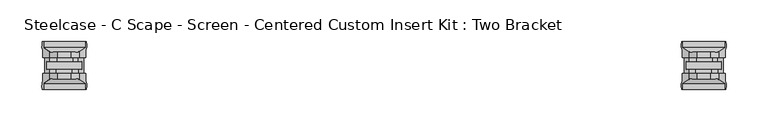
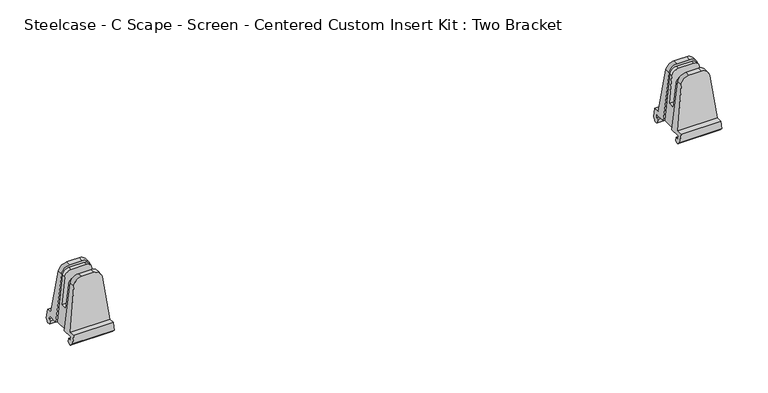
"""IFC4 building model written with IfcOpenShell, lengths in millimetres: furniture geometry, Steelcase - C Scape - Screen - Centered Custom Insert Kit : Two Bracket."""

from ifc_helpers import new_model, si_unit, frame, origin, place, context, project, spatial, circle_curve, ellipse_curve, source, transform, mapped, element, save
from ifc_brep_helpers import plane_surface, cylinder_surface, advanced_brep


def steelcase_c_scape_screen_centered_custom_insert_kit_two_a77dbf86(model_context):
    return source(origin(), model_context, "Body", "AdvancedBrep", [
        advanced_brep(
        [(828.8649563, -3.1752569, 793.5976353), (836.4687419, -3.1752569, 793.5976353), (844.1149668, -3.1752569, 793.5976353), (844.1149668, 3.17474, 793.5976353), (836.4687419, 3.17474, 793.5976353), (828.8649563, 3.17474, 793.5976353), (818.5537645, -3.1752569, 784.4759275), (811.1101946, -3.1752569, 723.9), (813.1940991, -3.1752569, 723.9), (819.4526704, -3.1752569, 783.4463283), (827.4545253, -3.1752569, 790.6512308), (847.0524021, -3.1752569, 790.6512308), (853.3679246, -3.1752569, 784.9620449), (859.7570489, -3.1752569, 723.9), (861.8697285, -3.1752569, 723.9), (854.4261585, -3.1752569, 784.4759275), (811.1101946, 10.1600734, 723.9), (861.8697285, 10.1600734, 723.9), (859.7570489, -22.2252569, 723.9), (861.8697285, -22.2250614, 723.9), (861.8697285, -35.5603917, 723.9), (811.1101946, -35.5603917, 723.9), (811.1101946, -22.2250614, 723.9), (813.1940991, -22.2250614, 723.9), (810.6415467, 10.1600734, 720.086134), (862.3383764, 10.1600734, 720.086134), (810.6415467, 6.7312129, 720.086134), (862.3383764, 6.7312129, 720.086134), (810.1109536, 6.7312129, 715.7681562), (862.8689695, 6.7312129, 715.7681562), (809.9003055, 9.1438564, 714.375), (863.0371783, 9.1438564, 714.375), (809.9397626, 11.8111354, 714.375), (863.0371783, 11.8111354, 714.375), (810.4079371, 15.6202052, 718.1850145), (862.5719859, 15.6202052, 718.1850145), (811.7562753, 15.6202052, 729.1578186), (861.2236478, 15.6202052, 729.1578186), (811.7562753, 8.8135415, 729.1578186), (861.2236478, 8.8135415, 729.1578186), (818.5537645, 3.9729344, 784.4759275), (854.4261585, 3.9729344, 784.4759275), (811.7562753, -34.2138598, 729.1578186), (861.2236478, -34.2138598, 729.1578186), (854.4261585, -29.3732527, 784.4759275), (844.1149668, -28.5750583, 793.5976353), (836.4687419, -28.5750583, 793.5976353), (828.8649563, -28.5750583, 793.5976353), (818.5537645, -29.3732527, 784.4759275), (811.7562753, -41.0205235, 729.1578186), (861.2236478, -41.0205235, 729.1578186), (810.4079371, -41.0205235, 718.1850145), (862.5719859, -41.0205235, 718.1850145), (809.9003055, -37.2114537, 714.375), (863.0371783, -37.2114537, 714.375), (809.9397626, -34.5441746, 714.375), (863.0371783, -34.5441746, 714.375), (810.1109536, -32.1315312, 715.7681562), (862.8689695, -32.1315312, 715.7681562), (810.6415467, -32.1315312, 720.086134), (862.3383764, -32.1315312, 720.086134), (810.6415467, -35.5603917, 720.086134), (862.3383764, -35.5603917, 720.086134), (828.8649563, -22.2250614, 793.5976353), (836.4687419, -22.2250614, 793.5976353), (844.1149668, -22.2250614, 793.5976353), (854.4261585, -22.2250614, 784.4759275), (853.9100885, -22.2250614, 779.780484), (846.1284113, -22.2250614, 786.79042), (826.601828, -22.2250614, 786.79042), (819.0935976, -22.2250614, 780.0299789), (818.5537645, -22.2250614, 784.4759275), (826.601828, -17.4500569, 786.79042), (846.1284113, -17.4500569, 786.79042), (853.9100885, -17.4500569, 779.780484), (857.1950426, -17.4500569, 748.3855694), (815.7676361, -17.4500569, 748.3855694), (819.0935976, -17.4500569, 780.0299789), (815.7676361, -7.9504569, 748.3855694), (819.4526704, -7.9504569, 783.4463283), (853.3679246, -7.9504569, 784.9620449), (857.1950426, -7.9504569, 748.3855694), (827.4545253, -7.9504569, 790.6512308), (847.0524021, -7.9504569, 790.6512308)],
        [
            (0, 1),
            (1, 2),
            (2, 3),
            (3, 4),
            (4, 5),
            (5, 0),
            (0, 6, circle_curve(frame((828.8649563, -3.1752569, 783.2088883), z_axis=(0.0, -1.0, 0.0), x_axis=(-1.0, 0.0, 0.0)), 10.388747)),
            (6, 7),
            (7, 8),
            (8, 9),
            (9, 10, circle_curve(frame((827.4545253, -3.1752569, 782.6052995), z_axis=(0.0, 1.0, 0.0), x_axis=(1.0, 0.0, 0.0)), 8.0459313)),
            (10, 11),
            (11, 12, circle_curve(frame((847.0524021, -3.1752569, 784.3012308), z_axis=(0.0, 1.0, 0.0), x_axis=(1.0, 0.0, 0.0)), 6.35)),
            (12, 13),
            (13, 14),
            (14, 15),
            (15, 2, circle_curve(frame((844.1149668, -3.1752569, 783.2088883), z_axis=(0.0, -1.0, 0.0), x_axis=(1.0, 0.0, 0.0)), 10.388747)),
            (16, 17),
            (17, 14),
            (13, 18),
            (18, 19),
            (19, 20),
            (20, 21),
            (21, 22),
            (22, 23),
            (23, 8),
            (7, 16),
            (16, 24),
            (24, 25),
            (25, 17),
            (24, 26),
            (26, 27),
            (27, 25),
            (26, 28),
            (28, 29),
            (29, 27),
            (30, 31),
            (31, 29),
            (28, 30),
            (30, 32),
            (32, 33),
            (33, 31),
            (32, 34),
            (34, 35),
            (35, 33),
            (34, 36),
            (36, 37),
            (37, 35),
            (36, 38),
            (38, 39),
            (39, 37),
            (38, 40),
            (40, 5, ellipse_curve(frame((828.8649563, 4.0838066, 783.2088883), z_axis=(0.0, 0.9961932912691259, 0.08717182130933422), x_axis=(0.0, 0.08717182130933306, -0.9961932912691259)), 10.428445, 10.388747)),
            (3, 41, ellipse_curve(frame((844.1149668, 4.0838066, 783.2088883), z_axis=(0.0, 0.9961932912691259, 0.08717182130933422), x_axis=(0.0, 0.08717182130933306, -0.9961932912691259)), 10.428445, 10.388747)),
            (41, 39),
            (42, 43),
            (43, 44),
            (44, 45, ellipse_curve(frame((844.1149668, -29.4841248, 783.2088883), z_axis=(0.0, -0.9961932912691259, 0.08717182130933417), x_axis=(0.0, 0.08717182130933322, 0.996193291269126)), 10.428445, 10.388747)),
            (45, 46),
            (46, 47),
            (47, 48, ellipse_curve(frame((828.8649563, -29.4841248, 783.2088883), z_axis=(0.0, -0.9961932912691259, 0.08717182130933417), x_axis=(0.0, 0.08717182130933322, 0.996193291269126)), 10.428445, 10.388747)),
            (48, 42),
            (42, 49),
            (49, 50),
            (50, 43),
            (49, 51),
            (51, 52),
            (52, 50),
            (53, 54),
            (54, 52),
            (51, 53),
            (53, 55),
            (55, 56),
            (56, 54),
            (55, 57),
            (57, 58),
            (58, 56),
            (57, 59),
            (59, 60),
            (60, 58),
            (59, 61),
            (61, 62),
            (62, 60),
            (61, 21),
            (20, 62),
            (63, 64),
            (64, 65),
            (65, 66, circle_curve(frame((844.1149668, -22.2250614, 783.2088883), z_axis=(0.0, 1.0, 0.0), x_axis=(1.0, 0.0, 0.0)), 10.388747)),
            (66, 19),
            (18, 67),
            (67, 68, circle_curve(frame((846.1284113, -22.2250614, 778.9662613), z_axis=(0.0, -1.0, 0.0), x_axis=(1.0, 0.0, 0.0)), 7.8241587)),
            (68, 69),
            (69, 70, circle_curve(frame((826.601828, -22.2250614, 779.2408321), z_axis=(0.0, -1.0, 0.0), x_axis=(1.0, 0.0, 0.0)), 7.5495878)),
            (70, 23),
            (22, 71),
            (71, 63, circle_curve(frame((828.8649563, -22.2250614, 783.2088883), z_axis=(0.0, 1.0, 0.0), x_axis=(-1.0, 0.0, 0.0)), 10.388747)),
            (45, 65),
            (63, 47),
            (6, 40),
            (48, 71),
            (15, 41),
            (44, 66),
            (72, 73),
            (73, 74, circle_curve(frame((846.1284113, -17.4500569, 778.9662613), z_axis=(0.0, 1.0, 0.0), x_axis=(1.0, 0.0, 0.0)), 7.8241587)),
            (74, 75),
            (75, 76),
            (76, 77),
            (77, 72, circle_curve(frame((826.601828, -17.4500569, 779.2408321), z_axis=(0.0, 1.0, 0.0), x_axis=(1.0, 0.0, 0.0)), 7.5495878)),
            (77, 70),
            (69, 72),
            (76, 78),
            (78, 79),
            (79, 9),
            (12, 80),
            (80, 81),
            (81, 75),
            (74, 67),
            (73, 68),
            (82, 79, circle_curve(frame((827.4545253, -7.9504569, 782.6052995), z_axis=(0.0, -1.0, 0.0), x_axis=(1.0, 0.0, 0.0)), 8.0459313)),
            (78, 81),
            (80, 83, circle_curve(frame((847.0524021, -7.9504569, 784.3012308), z_axis=(0.0, -1.0, 0.0), x_axis=(1.0, 0.0, 0.0)), 6.35)),
            (83, 82),
            (82, 10),
            (11, 83),
        ],
        [
            plane_surface(frame((863.0371783, 3.17474, 793.5976353), z_axis=(0.0, 0.0, 1.0), x_axis=(-1.0, 0.0, 0.0))),
            plane_surface(frame((863.0371783, -3.1752569, 793.5976353), z_axis=(0.0, -1.0, 0.0), x_axis=(-1.0, 0.0, 0.0))),
            plane_surface(frame((863.0371783, -3.1752569, 723.9), z_axis=(0.0, 0.0, -1.0), x_axis=(-1.0, 0.0, 0.0))),
            plane_surface(frame((863.0371783, 10.1600734, 723.9), z_axis=(0.0, -1.0, 0.0), x_axis=(-1.0, 0.0, 0.0))),
            plane_surface(frame((863.0371783, 10.1600734, 720.086134), z_axis=(0.0, 0.0, 1.0), x_axis=(-1.0, 0.0, 0.0))),
            plane_surface(frame((863.0371783, 6.7312129, 720.086134), z_axis=(0.0, -1.0, 0.0), x_axis=(-1.0, 0.0, 0.0))),
            plane_surface(frame((863.0371783, 6.7312129, 715.7681562), z_axis=(0.0, -0.5000581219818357, -0.8659918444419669), x_axis=(-1.0, 0.0, 0.0))),
            plane_surface(frame((863.0371783, 9.1438564, 714.375), z_axis=(0.0, 0.0, -1.0), x_axis=(-1.0, 0.0, 0.0))),
            plane_surface(frame((863.0371783, 11.8111354, 714.375), z_axis=(0.0, 0.7071944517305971, -0.7070190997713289), x_axis=(-1.0, 0.0, 0.0))),
            plane_surface(frame((863.0371783, 15.6202052, 718.1850145), z_axis=(0.0, 1.0, 0.0), x_axis=(-1.0, 0.0, 0.0))),
            plane_surface(frame((863.0371783, 15.6202052, 729.1578186), z_axis=(0.0, 0.0, 1.0), x_axis=(-1.0, 0.0, 0.0))),
            plane_surface(frame((863.0371783, 8.8135415, 729.1578186), z_axis=(0.0, 0.9961932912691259, 0.08717182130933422), x_axis=(-1.0, 0.0, 0.0))),
            plane_surface(frame((863.0371783, -28.5750583, 793.5976353), z_axis=(0.0, -0.9961932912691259, 0.08717182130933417), x_axis=(-1.0, 0.0, 0.0))),
            plane_surface(frame((863.0371783, -34.2138598, 729.1578186), z_axis=(0.0, 0.0, 1.0), x_axis=(-1.0, 0.0, 0.0))),
            plane_surface(frame((863.0371783, -41.0205235, 729.1578186), z_axis=(0.0, -1.0, 0.0), x_axis=(-1.0, 0.0, 0.0))),
            plane_surface(frame((863.0371783, -41.0205235, 718.1850145), z_axis=(0.0, -0.7071944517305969, -0.707019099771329), x_axis=(-1.0, 0.0, 0.0))),
            plane_surface(frame((863.0371783, -37.2114537, 714.375), z_axis=(0.0, 0.0, -1.0), x_axis=(-1.0, 0.0, 0.0))),
            plane_surface(frame((863.0371783, -34.5441746, 714.375), z_axis=(0.0, 0.5000581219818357, -0.8659918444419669), x_axis=(-1.0, 0.0, 0.0))),
            plane_surface(frame((863.0371783, -32.1315312, 715.7681562), z_axis=(0.0, 1.0, 0.0), x_axis=(-1.0, 0.0, 0.0))),
            plane_surface(frame((863.0371783, -32.1315312, 720.086134), z_axis=(0.0, 0.0, 1.0), x_axis=(-1.0, 0.0, 0.0))),
            plane_surface(frame((863.0371783, -35.5603917, 720.086134), z_axis=(0.0, 1.0, 0.0), x_axis=(-1.0, 0.0, 0.0))),
            plane_surface(frame((863.0371783, -22.2250614, 723.9), z_axis=(0.0, 1.0, 0.0), x_axis=(-1.0, 0.0, 0.0))),
            plane_surface(frame((863.0371783, -22.2250614, 793.5976353), z_axis=(0.0, 0.0, 1.0), x_axis=(-1.0, 0.0, 0.0))),
            plane_surface(frame((809.9397626, -43.2064559, 714.375), z_axis=(-0.9925346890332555, 0.0, 0.12196266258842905), x_axis=(0.0, 1.0, 0.0))),
            cylinder_surface(frame((828.8649563, 17.5208706, 783.2088883), z_axis=(0.0, 1.0, 0.0), x_axis=(-1.0, 0.0, 0.0)), 10.388747),
            cylinder_surface(frame((844.1149668, 17.5208706, 783.2088883), z_axis=(0.0, 1.0, 0.0), x_axis=(1.0, 0.0, 0.0)), 10.388747),
            plane_surface(frame((854.4261585, -43.2064559, 784.4759275), z_axis=(0.9925346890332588, 0.0, 0.12196266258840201), x_axis=(0.0, 1.0, 0.0))),
            plane_surface(frame((834.1514158, -17.4500569, 779.2408321), z_axis=(0.0, 1.0, 0.0), x_axis=(0.0, 0.0, -1.0))),
            cylinder_surface(frame((826.601828, -17.4500569, 779.2408321), z_axis=(0.0, -1.0, 0.0), x_axis=(1.0, 0.0, 0.0)), 7.5495878),
            plane_surface(frame((819.0935976, -22.2252569, 780.0299789), z_axis=(-0.9945218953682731, 0.0, 0.10452846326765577), x_axis=(0.0, 1.0, 0.0))),
            plane_surface(frame((859.7570489, -22.2252569, 723.9), z_axis=(0.9945704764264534, 0.0, 0.10406520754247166), x_axis=(0.0, 1.0, 0.0))),
            cylinder_surface(frame((846.1284113, -17.4500569, 778.9662613), z_axis=(0.0, -1.0, 0.0), x_axis=(1.0, 0.0, 0.0)), 7.8241587),
            plane_surface(frame((846.1284113, -22.2252569, 786.79042), z_axis=(0.0, 0.0, 1.0), x_axis=(0.0, 1.0, 0.0))),
            plane_surface(frame((835.5004566, -7.9504569, 782.6052995), z_axis=(0.0, -1.0, 0.0), x_axis=(0.0, 0.0, 1.0))),
            cylinder_surface(frame((827.4545253, -3.1752569, 782.6052995), z_axis=(0.0, -1.0, 0.0), x_axis=(1.0, 0.0, 0.0)), 8.0459313),
            cylinder_surface(frame((847.0524021, -3.1752569, 784.3012308), z_axis=(0.0, -1.0, 0.0), x_axis=(1.0, 0.0, 0.0)), 6.35),
            plane_surface(frame((847.0524021, -7.9504569, 790.6512308), z_axis=(0.0, 0.0, 1.0), x_axis=(0.0, 1.0, 0.0))),
            plane_surface(frame((857.1950426, -17.4500569, 748.3855694), z_axis=(0.0, 0.0, 1.0), x_axis=(0.0, 1.0, 0.0))),
        ],
        [
            (0, [[1, 2, 3, 4, 5, 6]]),
            (1, [[-1, 7, 8, 9, 10, 11, 12, 13, 14, 15, 16, 17, -2]]),
            (2, [[18, 19, -15, 20, 21, 22, 23, 24, 25, 26, -9, 27]]),
            (3, [[-18, 28, 29, 30]]),
            (4, [[-29, 31, 32, 33]]),
            (5, [[-32, 34, 35, 36]]),
            (6, [[37, 38, -35, 39]]),
            (7, [[-37, 40, 41, 42]]),
            (8, [[-41, 43, 44, 45]]),
            (9, [[-44, 46, 47, 48]]),
            (10, [[-47, 49, 50, 51]]),
            (11, [[-50, 52, 53, -5, -4, 54, 55]]),
            (12, [[56, 57, 58, 59, 60, 61, 62]]),
            (13, [[-56, 63, 64, 65]]),
            (14, [[-64, 66, 67, 68]]),
            (15, [[69, 70, -67, 71]]),
            (16, [[-69, 72, 73, 74]]),
            (17, [[-73, 75, 76, 77]]),
            (18, [[-76, 78, 79, 80]]),
            (19, [[-79, 81, 82, 83]]),
            (20, [[-82, 84, -23, 85]]),
            (21, [[86, 87, 88, 89, -21, 90, 91, 92, 93, 94, -25, 95, 96]]),
            (22, [[-59, 97, -87, -86, 98, -60]]),
            (23, [[99, -52, -49, -46, -43, -40, -39, -34, -31, -28, -27, -8]]),
            (23, [[100, -95, -24, -84, -81, -78, -75, -72, -71, -66, -63, -62]]),
            (24, [[-99, -7, -6, -53]]),
            (24, [[-100, -61, -98, -96]]),
            (25, [[101, -54, -3, -17]]),
            (25, [[102, -88, -97, -58]]),
            (26, [[-101, -16, -19, -30, -33, -36, -38, -42, -45, -48, -51, -55]]),
            (26, [[-102, -57, -65, -68, -70, -74, -77, -80, -83, -85, -22, -89]]),
            (27, [[103, 104, 105, 106, 107, 108]]),
            (28, [[-108, 109, -93, 110]]),
            (29, [[-109, -107, 111, 112, 113, -10, -26, -94]]),
            (30, [[-20, -14, 114, 115, 116, -105, 117, -90]]),
            (31, [[-104, 118, -91, -117]]),
            (32, [[-103, -110, -92, -118]]),
            (33, [[119, -112, 120, -115, 121, 122]]),
            (34, [[-119, 123, -11, -113]]),
            (35, [[-121, -114, -13, 124]]),
            (36, [[-122, -124, -12, -123]]),
            (37, [[-111, -106, -116, -120]]),
        ],
    ),
        advanced_brep(
        [(67.0173627, -3.1752569, 793.5976353), (74.6211483, -3.1752569, 793.5976353), (82.2673732, -3.1752569, 793.5976353), (82.2673732, 3.17474, 793.5976353), (74.6211483, 3.17474, 793.5976353), (67.0173627, 3.17474, 793.5976353), (56.706171, -3.1752569, 784.4759275), (49.262601, -3.1752569, 723.9), (51.3465055, -3.1752569, 723.9), (57.6050768, -3.1752569, 783.4463283), (65.6069317, -3.1752569, 790.6512308), (85.2048085, -3.1752569, 790.6512308), (91.520331, -3.1752569, 784.9620449), (97.9094553, -3.1752569, 723.9), (100.0221349, -3.1752569, 723.9), (92.578565, -3.1752569, 784.4759275), (49.262601, 10.1600734, 723.9), (100.0221349, 10.1600734, 723.9), (97.9094553, -22.2252569, 723.9), (100.0221349, -22.2250614, 723.9), (100.0221349, -35.5603917, 723.9), (49.262601, -35.5603917, 723.9), (49.262601, -22.2250614, 723.9), (51.3465055, -22.2250614, 723.9), (48.7939531, 10.1600734, 720.086134), (100.4907828, 10.1600734, 720.086134), (48.7939531, 6.7312129, 720.086134), (100.4907828, 6.7312129, 720.086134), (48.26336, 6.7312129, 715.7681562), (101.0213759, 6.7312129, 715.7681562), (48.0527119, 9.1438564, 714.375), (101.1895848, 9.1438564, 714.375), (48.092169, 11.8111354, 714.375), (101.1895848, 11.8111354, 714.375), (48.5603436, 15.6202052, 718.1850145), (100.7243923, 15.6202052, 718.1850145), (49.9086817, 15.6202052, 729.1578186), (99.3760542, 15.6202052, 729.1578186), (49.9086817, 8.8135415, 729.1578186), (99.3760542, 8.8135415, 729.1578186), (56.706171, 3.9729344, 784.4759275), (92.578565, 3.9729344, 784.4759275), (49.9086817, -34.2138598, 729.1578186), (99.3760542, -34.2138598, 729.1578186), (92.578565, -29.3732527, 784.4759275), (82.2673732, -28.5750583, 793.5976353), (74.6211483, -28.5750583, 793.5976353), (67.0173627, -28.5750583, 793.5976353), (56.706171, -29.3732527, 784.4759275), (49.9086817, -41.0205235, 729.1578186), (99.3760542, -41.0205235, 729.1578186), (48.5603436, -41.0205235, 718.1850145), (100.7243923, -41.0205235, 718.1850145), (48.0527119, -37.2114537, 714.375), (101.1895848, -37.2114537, 714.375), (48.092169, -34.5441746, 714.375), (101.1895848, -34.5441746, 714.375), (48.26336, -32.1315312, 715.7681562), (101.0213759, -32.1315312, 715.7681562), (48.7939531, -32.1315312, 720.086134), (100.4907828, -32.1315312, 720.086134), (48.7939531, -35.5603917, 720.086134), (100.4907828, -35.5603917, 720.086134), (67.0173627, -22.2250614, 793.5976353), (74.6211483, -22.2250614, 793.5976353), (82.2673732, -22.2250614, 793.5976353), (92.578565, -22.2250614, 784.4759275), (92.0624949, -22.2250614, 779.780484), (84.2808177, -22.2250614, 786.79042), (64.7542344, -22.2250614, 786.79042), (57.246004, -22.2250614, 780.0299789), (56.706171, -22.2250614, 784.4759275), (64.7542344, -17.4500569, 786.79042), (84.2808177, -17.4500569, 786.79042), (92.0624949, -17.4500569, 779.780484), (95.347449, -17.4500569, 748.3855694), (53.9200426, -17.4500569, 748.3855694), (57.246004, -17.4500569, 780.0299789), (53.9200426, -7.9504569, 748.3855694), (57.6050768, -7.9504569, 783.4463283), (91.520331, -7.9504569, 784.9620449), (95.347449, -7.9504569, 748.3855694), (65.6069317, -7.9504569, 790.6512308), (85.2048085, -7.9504569, 790.6512308)],
        [
            (0, 1),
            (1, 2),
            (2, 3),
            (3, 4),
            (4, 5),
            (5, 0),
            (0, 6, circle_curve(frame((67.0173627, -3.1752569, 783.2088883), z_axis=(0.0, -1.0, 0.0), x_axis=(-1.0, 0.0, 0.0)), 10.388747)),
            (6, 7),
            (7, 8),
            (8, 9),
            (9, 10, circle_curve(frame((65.6069317, -3.1752569, 782.6052995), z_axis=(0.0, 1.0, 0.0), x_axis=(1.0, 0.0, 0.0)), 8.0459313)),
            (10, 11),
            (11, 12, circle_curve(frame((85.2048085, -3.1752569, 784.3012308), z_axis=(0.0, 1.0, 0.0), x_axis=(1.0, 0.0, 0.0)), 6.35)),
            (12, 13),
            (13, 14),
            (14, 15),
            (15, 2, circle_curve(frame((82.2673732, -3.1752569, 783.2088883), z_axis=(0.0, -1.0, 0.0), x_axis=(1.0, 0.0, 0.0)), 10.388747)),
            (16, 17),
            (17, 14),
            (13, 18),
            (18, 19),
            (19, 20),
            (20, 21),
            (21, 22),
            (22, 23),
            (23, 8),
            (7, 16),
            (16, 24),
            (24, 25),
            (25, 17),
            (24, 26),
            (26, 27),
            (27, 25),
            (26, 28),
            (28, 29),
            (29, 27),
            (30, 31),
            (31, 29),
            (28, 30),
            (30, 32),
            (32, 33),
            (33, 31),
            (32, 34),
            (34, 35),
            (35, 33),
            (34, 36),
            (36, 37),
            (37, 35),
            (36, 38),
            (38, 39),
            (39, 37),
            (38, 40),
            (40, 5, ellipse_curve(frame((67.0173627, 4.0838066, 783.2088883), z_axis=(0.0, 0.9961932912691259, 0.08717182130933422), x_axis=(0.0, 0.08717182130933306, -0.9961932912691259)), 10.428445, 10.388747)),
            (3, 41, ellipse_curve(frame((82.2673732, 4.0838066, 783.2088883), z_axis=(0.0, 0.9961932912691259, 0.08717182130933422), x_axis=(0.0, 0.08717182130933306, -0.9961932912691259)), 10.428445, 10.388747)),
            (41, 39),
            (42, 43),
            (43, 44),
            (44, 45, ellipse_curve(frame((82.2673732, -29.4841248, 783.2088883), z_axis=(0.0, -0.9961932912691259, 0.08717182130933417), x_axis=(0.0, 0.08717182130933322, 0.996193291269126)), 10.428445, 10.388747)),
            (45, 46),
            (46, 47),
            (47, 48, ellipse_curve(frame((67.0173627, -29.4841248, 783.2088883), z_axis=(0.0, -0.9961932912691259, 0.08717182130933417), x_axis=(0.0, 0.08717182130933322, 0.996193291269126)), 10.428445, 10.388747)),
            (48, 42),
            (42, 49),
            (49, 50),
            (50, 43),
            (49, 51),
            (51, 52),
            (52, 50),
            (53, 54),
            (54, 52),
            (51, 53),
            (53, 55),
            (55, 56),
            (56, 54),
            (55, 57),
            (57, 58),
            (58, 56),
            (57, 59),
            (59, 60),
            (60, 58),
            (59, 61),
            (61, 62),
            (62, 60),
            (61, 21),
            (20, 62),
            (63, 64),
            (64, 65),
            (65, 66, circle_curve(frame((82.2673732, -22.2250614, 783.2088883), z_axis=(0.0, 1.0, 0.0), x_axis=(1.0, 0.0, 0.0)), 10.388747)),
            (66, 19),
            (18, 67),
            (67, 68, circle_curve(frame((84.2808177, -22.2250614, 778.9662613), z_axis=(0.0, -1.0, 0.0), x_axis=(1.0, 0.0, 0.0)), 7.8241587)),
            (68, 69),
            (69, 70, circle_curve(frame((64.7542344, -22.2250614, 779.2408321), z_axis=(0.0, -1.0, 0.0), x_axis=(1.0, 0.0, 0.0)), 7.5495878)),
            (70, 23),
            (22, 71),
            (71, 63, circle_curve(frame((67.0173627, -22.2250614, 783.2088883), z_axis=(0.0, 1.0, 0.0), x_axis=(-1.0, 0.0, 0.0)), 10.388747)),
            (45, 65),
            (63, 47),
            (6, 40),
            (48, 71),
            (15, 41),
            (44, 66),
            (72, 73),
            (73, 74, circle_curve(frame((84.2808177, -17.4500569, 778.9662613), z_axis=(0.0, 1.0, 0.0), x_axis=(1.0, 0.0, 0.0)), 7.8241587)),
            (74, 75),
            (75, 76),
            (76, 77),
            (77, 72, circle_curve(frame((64.7542344, -17.4500569, 779.2408321), z_axis=(0.0, 1.0, 0.0), x_axis=(1.0, 0.0, 0.0)), 7.5495878)),
            (77, 70),
            (69, 72),
            (76, 78),
            (78, 79),
            (79, 9),
            (12, 80),
            (80, 81),
            (81, 75),
            (74, 67),
            (73, 68),
            (82, 79, circle_curve(frame((65.6069317, -7.9504569, 782.6052995), z_axis=(0.0, -1.0, 0.0), x_axis=(1.0, 0.0, 0.0)), 8.0459313)),
            (78, 81),
            (80, 83, circle_curve(frame((85.2048085, -7.9504569, 784.3012308), z_axis=(0.0, -1.0, 0.0), x_axis=(1.0, 0.0, 0.0)), 6.35)),
            (83, 82),
            (82, 10),
            (11, 83),
        ],
        [
            plane_surface(frame((101.1895848, 3.17474, 793.5976353), z_axis=(0.0, 0.0, 1.0), x_axis=(-1.0, 0.0, 0.0))),
            plane_surface(frame((101.1895848, -3.1752569, 793.5976353), z_axis=(0.0, -1.0, 0.0), x_axis=(-1.0, 0.0, 0.0))),
            plane_surface(frame((101.1895848, -3.1752569, 723.9), z_axis=(0.0, 0.0, -1.0), x_axis=(-1.0, 0.0, 0.0))),
            plane_surface(frame((101.1895848, 10.1600734, 723.9), z_axis=(0.0, -1.0, 0.0), x_axis=(-1.0, 0.0, 0.0))),
            plane_surface(frame((101.1895848, 10.1600734, 720.086134), z_axis=(0.0, 0.0, 1.0), x_axis=(-1.0, 0.0, 0.0))),
            plane_surface(frame((101.1895848, 6.7312129, 720.086134), z_axis=(0.0, -1.0, 0.0), x_axis=(-1.0, 0.0, 0.0))),
            plane_surface(frame((101.1895848, 6.7312129, 715.7681562), z_axis=(0.0, -0.5000581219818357, -0.8659918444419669), x_axis=(-1.0, 0.0, 0.0))),
            plane_surface(frame((101.1895848, 9.1438564, 714.375), z_axis=(0.0, 0.0, -1.0), x_axis=(-1.0, 0.0, 0.0))),
            plane_surface(frame((101.1895848, 11.8111354, 714.375), z_axis=(0.0, 0.7071944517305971, -0.7070190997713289), x_axis=(-1.0, 0.0, 0.0))),
            plane_surface(frame((101.1895848, 15.6202052, 718.1850145), z_axis=(0.0, 1.0, 0.0), x_axis=(-1.0, 0.0, 0.0))),
            plane_surface(frame((101.1895848, 15.6202052, 729.1578186), z_axis=(0.0, 0.0, 1.0), x_axis=(-1.0, 0.0, 0.0))),
            plane_surface(frame((101.1895848, 8.8135415, 729.1578186), z_axis=(0.0, 0.9961932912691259, 0.08717182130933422), x_axis=(-1.0, 0.0, 0.0))),
            plane_surface(frame((101.1895848, -28.5750583, 793.5976353), z_axis=(0.0, -0.9961932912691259, 0.08717182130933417), x_axis=(-1.0, 0.0, 0.0))),
            plane_surface(frame((101.1895848, -34.2138598, 729.1578186), z_axis=(0.0, 0.0, 1.0), x_axis=(-1.0, 0.0, 0.0))),
            plane_surface(frame((101.1895848, -41.0205235, 729.1578186), z_axis=(0.0, -1.0, 0.0), x_axis=(-1.0, 0.0, 0.0))),
            plane_surface(frame((101.1895848, -41.0205235, 718.1850145), z_axis=(0.0, -0.7071944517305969, -0.707019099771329), x_axis=(-1.0, 0.0, 0.0))),
            plane_surface(frame((101.1895848, -37.2114537, 714.375), z_axis=(0.0, 0.0, -1.0), x_axis=(-1.0, 0.0, 0.0))),
            plane_surface(frame((101.1895848, -34.5441746, 714.375), z_axis=(0.0, 0.5000581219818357, -0.8659918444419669), x_axis=(-1.0, 0.0, 0.0))),
            plane_surface(frame((101.1895848, -32.1315312, 715.7681562), z_axis=(0.0, 1.0, 0.0), x_axis=(-1.0, 0.0, 0.0))),
            plane_surface(frame((101.1895848, -32.1315312, 720.086134), z_axis=(0.0, 0.0, 1.0), x_axis=(-1.0, 0.0, 0.0))),
            plane_surface(frame((101.1895848, -35.5603917, 720.086134), z_axis=(0.0, 1.0, 0.0), x_axis=(-1.0, 0.0, 0.0))),
            plane_surface(frame((101.1895848, -22.2250614, 723.9), z_axis=(0.0, 1.0, 0.0), x_axis=(-1.0, 0.0, 0.0))),
            plane_surface(frame((101.1895848, -22.2250614, 793.5976353), z_axis=(0.0, 0.0, 1.0), x_axis=(-1.0, 0.0, 0.0))),
            plane_surface(frame((48.092169, -43.2064559, 714.375), z_axis=(-0.9925346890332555, 0.0, 0.12196266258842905), x_axis=(0.0, 1.0, 0.0))),
            cylinder_surface(frame((67.0173627, 17.5208706, 783.2088883), z_axis=(0.0, 1.0, 0.0), x_axis=(-1.0, 0.0, 0.0)), 10.388747),
            cylinder_surface(frame((82.2673732, 17.5208706, 783.2088883), z_axis=(0.0, 1.0, 0.0), x_axis=(1.0, 0.0, 0.0)), 10.388747),
            plane_surface(frame((92.578565, -43.2064559, 784.4759275), z_axis=(0.9925346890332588, 0.0, 0.12196266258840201), x_axis=(0.0, 1.0, 0.0))),
            plane_surface(frame((72.3038223, -17.4500569, 779.2408321), z_axis=(0.0, 1.0, 0.0), x_axis=(0.0, 0.0, -1.0))),
            cylinder_surface(frame((64.7542344, -17.4500569, 779.2408321), z_axis=(0.0, -1.0, 0.0), x_axis=(1.0, 0.0, 0.0)), 7.5495878),
            plane_surface(frame((57.246004, -22.2252569, 780.0299789), z_axis=(-0.9945218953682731, 0.0, 0.10452846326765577), x_axis=(0.0, 1.0, 0.0))),
            plane_surface(frame((97.9094553, -22.2252569, 723.9), z_axis=(0.9945704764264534, 0.0, 0.10406520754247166), x_axis=(0.0, 1.0, 0.0))),
            cylinder_surface(frame((84.2808177, -17.4500569, 778.9662613), z_axis=(0.0, -1.0, 0.0), x_axis=(1.0, 0.0, 0.0)), 7.8241587),
            plane_surface(frame((84.2808177, -22.2252569, 786.79042), z_axis=(0.0, 0.0, 1.0), x_axis=(0.0, 1.0, 0.0))),
            plane_surface(frame((73.652863, -7.9504569, 782.6052995), z_axis=(0.0, -1.0, 0.0), x_axis=(0.0, 0.0, 1.0))),
            cylinder_surface(frame((65.6069317, -3.1752569, 782.6052995), z_axis=(0.0, -1.0, 0.0), x_axis=(1.0, 0.0, 0.0)), 8.0459313),
            cylinder_surface(frame((85.2048085, -3.1752569, 784.3012308), z_axis=(0.0, -1.0, 0.0), x_axis=(1.0, 0.0, 0.0)), 6.35),
            plane_surface(frame((85.2048085, -7.9504569, 790.6512308), z_axis=(0.0, 0.0, 1.0), x_axis=(0.0, 1.0, 0.0))),
            plane_surface(frame((95.347449, -17.4500569, 748.3855694), z_axis=(0.0, 0.0, 1.0), x_axis=(0.0, 1.0, 0.0))),
        ],
        [
            (0, [[1, 2, 3, 4, 5, 6]]),
            (1, [[-1, 7, 8, 9, 10, 11, 12, 13, 14, 15, 16, 17, -2]]),
            (2, [[18, 19, -15, 20, 21, 22, 23, 24, 25, 26, -9, 27]]),
            (3, [[-18, 28, 29, 30]]),
            (4, [[-29, 31, 32, 33]]),
            (5, [[-32, 34, 35, 36]]),
            (6, [[37, 38, -35, 39]]),
            (7, [[-37, 40, 41, 42]]),
            (8, [[-41, 43, 44, 45]]),
            (9, [[-44, 46, 47, 48]]),
            (10, [[-47, 49, 50, 51]]),
            (11, [[-50, 52, 53, -5, -4, 54, 55]]),
            (12, [[56, 57, 58, 59, 60, 61, 62]]),
            (13, [[-56, 63, 64, 65]]),
            (14, [[-64, 66, 67, 68]]),
            (15, [[69, 70, -67, 71]]),
            (16, [[-69, 72, 73, 74]]),
            (17, [[-73, 75, 76, 77]]),
            (18, [[-76, 78, 79, 80]]),
            (19, [[-79, 81, 82, 83]]),
            (20, [[-82, 84, -23, 85]]),
            (21, [[86, 87, 88, 89, -21, 90, 91, 92, 93, 94, -25, 95, 96]]),
            (22, [[-59, 97, -87, -86, 98, -60]]),
            (23, [[99, -52, -49, -46, -43, -40, -39, -34, -31, -28, -27, -8]]),
            (23, [[100, -95, -24, -84, -81, -78, -75, -72, -71, -66, -63, -62]]),
            (24, [[-99, -7, -6, -53]]),
            (24, [[-100, -61, -98, -96]]),
            (25, [[101, -54, -3, -17]]),
            (25, [[102, -88, -97, -58]]),
            (26, [[-101, -16, -19, -30, -33, -36, -38, -42, -45, -48, -51, -55]]),
            (26, [[-102, -57, -65, -68, -70, -74, -77, -80, -83, -85, -22, -89]]),
            (27, [[103, 104, 105, 106, 107, 108]]),
            (28, [[-108, 109, -93, 110]]),
            (29, [[-109, -107, 111, 112, 113, -10, -26, -94]]),
            (30, [[-20, -14, 114, 115, 116, -105, 117, -90]]),
            (31, [[-104, 118, -91, -117]]),
            (32, [[-103, -110, -92, -118]]),
            (33, [[119, -112, 120, -115, 121, 122]]),
            (34, [[-119, 123, -11, -113]]),
            (35, [[-121, -114, -13, 124]]),
            (36, [[-122, -124, -12, -123]]),
            (37, [[-111, -106, -116, -120]]),
        ],
    ),
    ])


if __name__ == "__main__":
    model = new_model("IFC4")
    model_context = context("Model", 3, world=origin())
    ifc_project = project(units=[si_unit("LENGTHUNIT", "METRE", prefix="MILLI")], contexts=[model_context])
    site = spatial("IfcSite", under=ifc_project)
    building = spatial("IfcBuilding", under=site)
    placement = place(None, origin())
    steelcase_c_scape_screen_centered_custom_insert_kit_two_shape = steelcase_c_scape_screen_centered_custom_insert_kit_two_a77dbf86(model_context)
    element("IfcFurniture", 1, ObjectType="Steelcase - C Scape - Screen - Centered Custom Insert Kit : Two Bracket", at=placement, inside=building, context=model_context, shape_type="MappedRepresentation", body=[
        mapped(steelcase_c_scape_screen_centered_custom_insert_kit_two_shape, transform((0.0, 0.0, 0.0), x_axis=(1.0, 0.0, 0.0), y_axis=(0.0, 1.0, 0.0), z_axis=(0.0, 0.0, 1.0))),
    ])
    save(model, "model.ifc")
